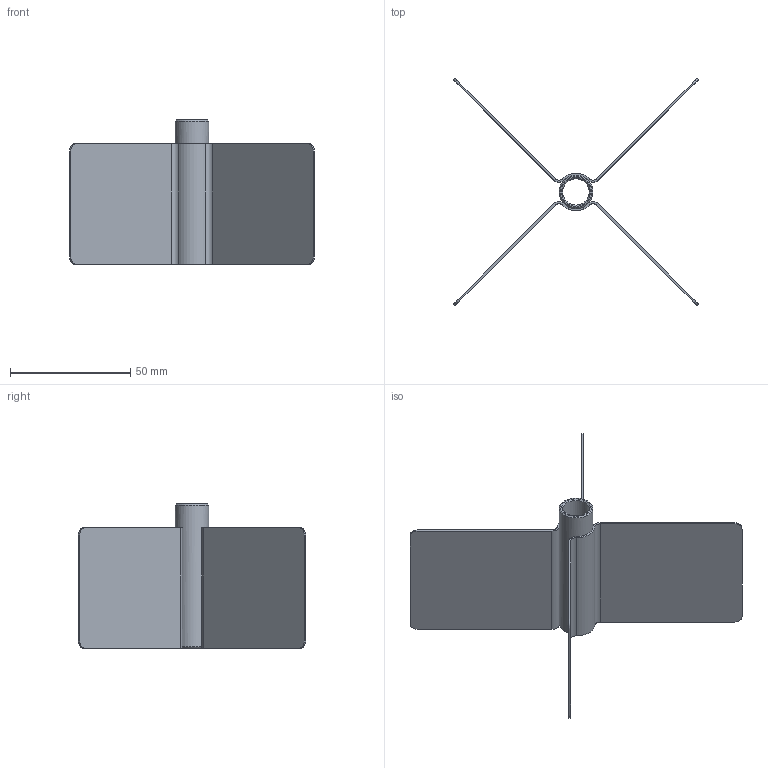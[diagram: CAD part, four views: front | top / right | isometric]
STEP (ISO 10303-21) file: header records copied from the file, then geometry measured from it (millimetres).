
FILE_DESCRIPTION(/* description */ (''),/* implementation_level */ '2;1');
FILE_NAME(/* name */ 'AC5-INOX.stp',/* time_stamp */ '2024-03-22T10:47:09+01:00',/* author */ ('filippo.guidetti'),/* organization */ (''),/* preprocessor_version */ 'ST-DEVELOPER v20',/* originating_system */ 'Autodesk Inventor 2024',/* authorisation */ '');
FILE_SCHEMA (('AUTOMOTIVE_DESIGN { 1 0 10303 214 3 1 1 }'));
Length unit declared in the file: millimetre
Products named in the file (1): AC5-INOX
Bounding box: 101.82 x 94.47 x 60 mm (x, y, z)
Volume: 14480.2 mm3; surface area: 30704.5 mm2
Topology: 1 solids, 1 shells, 49 faces, 139 edges, 92 vertices
Faces by surface type: cylinder 23, plane 22, cone 4
Full cylindrical faces by diameter (mm): 5.5 x1, 11 x1, 14 x1
Entity records: 1769 total; most frequent: CARTESIAN_POINT 326, DIRECTION 295, ORIENTED_EDGE 278, EDGE_CURVE 139, AXIS2_PLACEMENT_3D 111, VERTEX_POINT 92, LINE 73, VECTOR 73
